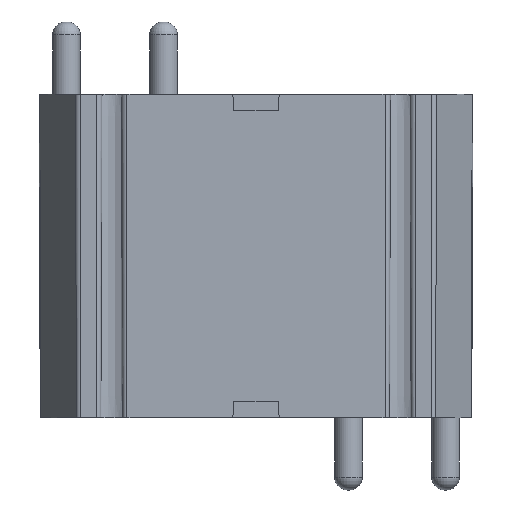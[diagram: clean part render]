
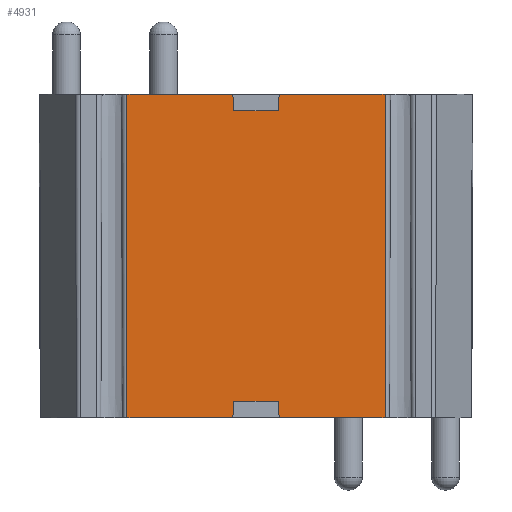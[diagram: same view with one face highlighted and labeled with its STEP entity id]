
A CAD part, front view. The second image highlights one B-rep face of the part: STEP entity #4931.
In plain terms, the highlighted planar face has unit normal (0, -1, -0.004).
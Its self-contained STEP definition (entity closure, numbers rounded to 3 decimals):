
#52 = DIRECTION ( 'NONE',  ( 0.052, 0.003, -0.999 ) ) ;
#177 = DIRECTION ( 'NONE',  ( 1., 0., 0. ) ) ;
#285 = LINE ( 'NONE', #1473, #2979 ) ;
#369 = CARTESIAN_POINT ( 'NONE',  ( -2.5, 0., 0. ) ) ;
#388 = CARTESIAN_POINT ( 'NONE',  ( -2.406, 0.006, -1.8 ) ) ;
#429 = VERTEX_POINT ( 'NONE', #388 ) ;
#438 = VERTEX_POINT ( 'NONE', #4736 ) ;
#444 = ORIENTED_EDGE ( 'NONE', *, *, #2634, .F. ) ;
#452 = ORIENTED_EDGE ( 'NONE', *, *, #4844, .F. ) ;
#454 = CARTESIAN_POINT ( 'NONE',  ( -14.55, 0., 0. ) ) ;
#461 = EDGE_CURVE ( 'NONE', #3085, #3526, #957, .T. ) ;
#468 = ORIENTED_EDGE ( 'NONE', *, *, #4166, .T. ) ;
#495 = CARTESIAN_POINT ( 'NONE',  ( 13.95, 0., 0. ) ) ;
#509 = VERTEX_POINT ( 'NONE', #495 ) ;
#569 = LINE ( 'NONE', #3725, #915 ) ;
#663 = VERTEX_POINT ( 'NONE', #1080 ) ;
#666 = DIRECTION ( 'NONE',  ( 0., 0.003, -1. ) ) ;
#723 = EDGE_CURVE ( 'NONE', #2709, #3085, #4612, .T. ) ;
#758 = DIRECTION ( 'NONE',  ( 1., 0., 0. ) ) ;
#771 = DIRECTION ( 'NONE',  ( -0.052, 0.003, -0.999 ) ) ;
#785 = CARTESIAN_POINT ( 'NONE',  ( -2.533, -0.002, 0.63 ) ) ;
#845 = FACE_OUTER_BOUND ( 'NONE', #4270, .T. ) ;
#915 = VECTOR ( 'NONE', #177, 1000. ) ;
#957 = LINE ( 'NONE', #2155, #3968 ) ;
#1002 = VECTOR ( 'NONE', #758, 1000. ) ;
#1058 = VECTOR ( 'NONE', #4401, 1000. ) ;
#1080 = CARTESIAN_POINT ( 'NONE',  ( 2.406, 0.116, -33.2 ) ) ;
#1086 = CARTESIAN_POINT ( 'NONE',  ( -14.55, 0.122, -35. ) ) ;
#1153 = CARTESIAN_POINT ( 'NONE',  ( -0.704, 0.003, -0.726 ) ) ;
#1172 = DIRECTION ( 'NONE',  ( 0., -1., -0.003 ) ) ;
#1473 = CARTESIAN_POINT ( 'NONE',  ( 2.453, 0.003, -0.891 ) ) ;
#1535 = LINE ( 'NONE', #1153, #2817 ) ;
#1577 = EDGE_CURVE ( 'NONE', #2709, #4867, #2828, .T. ) ;
#1598 = CARTESIAN_POINT ( 'NONE',  ( 2.406, 0.006, -1.8 ) ) ;
#1623 = CARTESIAN_POINT ( 'NONE',  ( 13.95, 0., 0. ) ) ;
#1628 = VECTOR ( 'NONE', #4352, 1000. ) ;
#1708 = VECTOR ( 'NONE', #666, 1000. ) ;
#1776 = CARTESIAN_POINT ( 'NONE',  ( -14.55, 0.116, -33.2 ) ) ;
#1816 = CARTESIAN_POINT ( 'NONE',  ( -2.406, 0.116, -33.2 ) ) ;
#1818 = EDGE_CURVE ( 'NONE', #2518, #509, #569, .T. ) ;
#1865 = DIRECTION ( 'NONE',  ( 0.052, -0.003, 0.999 ) ) ;
#1929 = CARTESIAN_POINT ( 'NONE',  ( -2.5, 0.122, -35. ) ) ;
#1935 = ORIENTED_EDGE ( 'NONE', *, *, #723, .T. ) ;
#1967 = LINE ( 'NONE', #1623, #1628 ) ;
#1979 = CARTESIAN_POINT ( 'NONE',  ( -14.55, 0., 0. ) ) ;
#2018 = LINE ( 'NONE', #2815, #1058 ) ;
#2070 = VECTOR ( 'NONE', #3353, 1000. ) ;
#2118 = ORIENTED_EDGE ( 'NONE', *, *, #3383, .T. ) ;
#2155 = CARTESIAN_POINT ( 'NONE',  ( -14.55, 0.122, -35. ) ) ;
#2344 = LINE ( 'NONE', #785, #3036 ) ;
#2422 = EDGE_CURVE ( 'NONE', #3233, #429, #5054, .T. ) ;
#2445 = EDGE_CURVE ( 'NONE', #3599, #3526, #1535, .T. ) ;
#2518 = VERTEX_POINT ( 'NONE', #2988 ) ;
#2560 = CARTESIAN_POINT ( 'NONE',  ( 2.5, 0.122, -35. ) ) ;
#2633 = CARTESIAN_POINT ( 'NONE',  ( -13.95, 0., 0. ) ) ;
#2634 = EDGE_CURVE ( 'NONE', #3233, #2518, #285, .T. ) ;
#2709 = VERTEX_POINT ( 'NONE', #4575 ) ;
#2713 = CARTESIAN_POINT ( 'NONE',  ( -14.55, 0.006, -1.8 ) ) ;
#2720 = VECTOR ( 'NONE', #2999, 1000. ) ;
#2756 = DIRECTION ( 'NONE',  ( 0., 0.003, -1. ) ) ;
#2815 = CARTESIAN_POINT ( 'NONE',  ( 0.624, -0.003, 0.795 ) ) ;
#2817 = VECTOR ( 'NONE', #771, 1000. ) ;
#2828 = LINE ( 'NONE', #1979, #1002 ) ;
#2919 = ORIENTED_EDGE ( 'NONE', *, *, #2445, .F. ) ;
#2959 = ORIENTED_EDGE ( 'NONE', *, *, #461, .T. ) ;
#2979 = VECTOR ( 'NONE', #1865, 1000. ) ;
#2988 = CARTESIAN_POINT ( 'NONE',  ( 2.5, 0., 0. ) ) ;
#2999 = DIRECTION ( 'NONE',  ( 1., 0., 0. ) ) ;
#3022 = CARTESIAN_POINT ( 'NONE',  ( -13.95, 0.122, -35. ) ) ;
#3036 = VECTOR ( 'NONE', #52, 1000. ) ;
#3050 = EDGE_CURVE ( 'NONE', #3368, #438, #4960, .T. ) ;
#3057 = VECTOR ( 'NONE', #3148, 1000. ) ;
#3085 = VERTEX_POINT ( 'NONE', #3022 ) ;
#3148 = DIRECTION ( 'NONE',  ( -1., 0., 0. ) ) ;
#3233 = VERTEX_POINT ( 'NONE', #1598 ) ;
#3253 = ORIENTED_EDGE ( 'NONE', *, *, #4485, .F. ) ;
#3353 = DIRECTION ( 'NONE',  ( 1., 0., 0. ) ) ;
#3368 = VERTEX_POINT ( 'NONE', #2560 ) ;
#3383 = EDGE_CURVE ( 'NONE', #3599, #663, #3641, .T. ) ;
#3526 = VERTEX_POINT ( 'NONE', #1929 ) ;
#3599 = VERTEX_POINT ( 'NONE', #1816 ) ;
#3641 = LINE ( 'NONE', #1776, #2070 ) ;
#3724 = DIRECTION ( 'NONE',  ( 1., 0., 0. ) ) ;
#3725 = CARTESIAN_POINT ( 'NONE',  ( -14.55, 0., 0. ) ) ;
#3921 = ORIENTED_EDGE ( 'NONE', *, *, #1818, .F. ) ;
#3968 = VECTOR ( 'NONE', #3724, 1000. ) ;
#3988 = PLANE ( 'NONE',  #4348 ) ;
#4018 = ORIENTED_EDGE ( 'NONE', *, *, #1577, .F. ) ;
#4166 = EDGE_CURVE ( 'NONE', #438, #509, #1967, .T. ) ;
#4270 = EDGE_LOOP ( 'NONE', ( #3253, #4668, #468, #3921, #444, #4982, #452, #4018, #1935, #2959, #2919, #2118 ) ) ;
#4348 = AXIS2_PLACEMENT_3D ( 'NONE', #454, #1172, #2756 ) ;
#4352 = DIRECTION ( 'NONE',  ( 0., -0.003, 1. ) ) ;
#4401 = DIRECTION ( 'NONE',  ( -0.052, -0.003, 0.999 ) ) ;
#4485 = EDGE_CURVE ( 'NONE', #3368, #663, #2018, .T. ) ;
#4575 = CARTESIAN_POINT ( 'NONE',  ( -13.95, 0., 0. ) ) ;
#4612 = LINE ( 'NONE', #2633, #1708 ) ;
#4668 = ORIENTED_EDGE ( 'NONE', *, *, #3050, .T. ) ;
#4736 = CARTESIAN_POINT ( 'NONE',  ( 13.95, 0.122, -35. ) ) ;
#4844 = EDGE_CURVE ( 'NONE', #4867, #429, #2344, .T. ) ;
#4867 = VERTEX_POINT ( 'NONE', #369 ) ;
#4931 = ADVANCED_FACE ( 'NONE', ( #845 ), #3988, .T. ) ;
#4960 = LINE ( 'NONE', #1086, #2720 ) ;
#4982 = ORIENTED_EDGE ( 'NONE', *, *, #2422, .T. ) ;
#5054 = LINE ( 'NONE', #2713, #3057 ) ;
